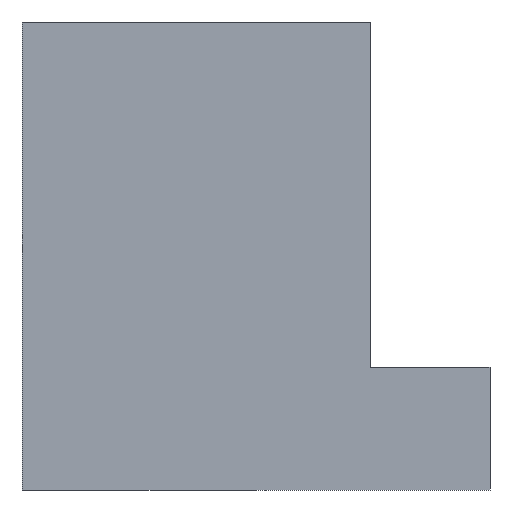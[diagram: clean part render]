
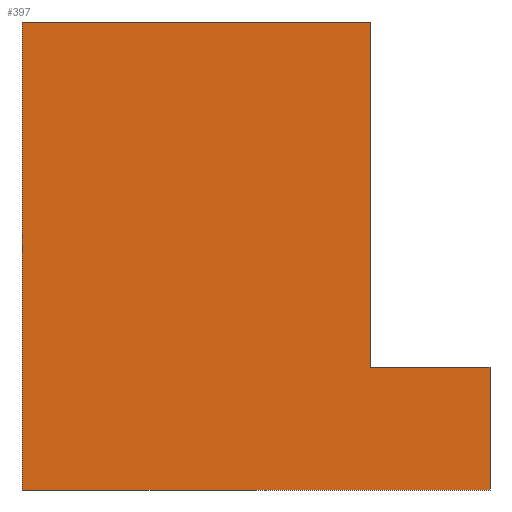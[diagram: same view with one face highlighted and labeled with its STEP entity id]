
A CAD part, left-side view. The second image highlights one B-rep face of the part: STEP entity #397.
In plain terms, the highlighted planar face has unit normal (-1, 0, 0).
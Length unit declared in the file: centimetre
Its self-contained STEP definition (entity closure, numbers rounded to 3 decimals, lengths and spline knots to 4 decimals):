
#2 = EDGE_CURVE ( 'NONE', #27, #269, #17, .T. ) ;
#17 = LINE ( 'NONE', #242, #319 ) ;
#21 = EDGE_CURVE ( 'NONE', #49, #164, #249, .T. ) ;
#27 = VERTEX_POINT ( 'NONE', #320 ) ;
#40 = EDGE_CURVE ( 'NONE', #164, #278, #157, .T. ) ;
#49 = VERTEX_POINT ( 'NONE', #309 ) ;
#64 = ORIENTED_EDGE ( 'NONE', *, *, #162, .F. ) ;
#84 = ORIENTED_EDGE ( 'NONE', *, *, #227, .T. ) ;
#86 = CARTESIAN_POINT ( 'NONE',  ( 0., 1000., 1000. ) ) ;
#95 = LINE ( 'NONE', #334, #243 ) ;
#102 = VECTOR ( 'NONE', #312, 100. ) ;
#104 = CARTESIAN_POINT ( 'NONE',  ( 0., 0., 0. ) ) ;
#105 = VERTEX_POINT ( 'NONE', #110 ) ;
#110 = CARTESIAN_POINT ( 'NONE',  ( 0., 255.1383, 1000. ) ) ;
#128 = FACE_OUTER_BOUND ( 'NONE', #160, .T. ) ;
#147 = ORIENTED_EDGE ( 'NONE', *, *, #218, .T. ) ;
#157 = LINE ( 'NONE', #429, #102 ) ;
#159 = PLANE ( 'NONE',  #221 ) ;
#160 = EDGE_LOOP ( 'NONE', ( #335, #147, #64, #196, #84, #264 ) ) ;
#162 = EDGE_CURVE ( 'NONE', #27, #105, #348, .T. ) ;
#164 = VERTEX_POINT ( 'NONE', #272 ) ;
#176 = DIRECTION ( 'NONE',  ( 0., 0., -1. ) ) ;
#178 = CARTESIAN_POINT ( 'NONE',  ( 0., 1000., 1000. ) ) ;
#182 = DIRECTION ( 'NONE',  ( 0., -1., 0. ) ) ;
#196 = ORIENTED_EDGE ( 'NONE', *, *, #2, .T. ) ;
#211 = DIRECTION ( 'NONE',  ( 0., -1., 0. ) ) ;
#218 = EDGE_CURVE ( 'NONE', #49, #105, #95, .T. ) ;
#221 = AXIS2_PLACEMENT_3D ( 'NONE', #86, #257, #223 ) ;
#223 = DIRECTION ( 'NONE',  ( 0., 0., -1. ) ) ;
#227 = EDGE_CURVE ( 'NONE', #269, #278, #258, .T. ) ;
#228 = DIRECTION ( 'NONE',  ( 0., -1., 0. ) ) ;
#230 = DIRECTION ( 'NONE',  ( 0., 0., 1. ) ) ;
#242 = CARTESIAN_POINT ( 'NONE',  ( 0., 1000., 1000. ) ) ;
#243 = VECTOR ( 'NONE', #230, 100. ) ;
#249 = LINE ( 'NONE', #283, #389 ) ;
#257 = DIRECTION ( 'NONE',  ( 1., 0., 0. ) ) ;
#258 = LINE ( 'NONE', #366, #427 ) ;
#264 = ORIENTED_EDGE ( 'NONE', *, *, #40, .F. ) ;
#269 = VERTEX_POINT ( 'NONE', #304 ) ;
#272 = CARTESIAN_POINT ( 'NONE',  ( 0., 0., 262.7558 ) ) ;
#278 = VERTEX_POINT ( 'NONE', #104 ) ;
#283 = CARTESIAN_POINT ( 'NONE',  ( 0., 255.1383, 262.7558 ) ) ;
#304 = CARTESIAN_POINT ( 'NONE',  ( 0., 1000., 0. ) ) ;
#309 = CARTESIAN_POINT ( 'NONE',  ( 0., 255.1383, 262.7558 ) ) ;
#312 = DIRECTION ( 'NONE',  ( 0., 0., -1. ) ) ;
#319 = VECTOR ( 'NONE', #176, 100. ) ;
#320 = CARTESIAN_POINT ( 'NONE',  ( 0., 1000., 1000. ) ) ;
#334 = CARTESIAN_POINT ( 'NONE',  ( 0., 255.1383, 262.7558 ) ) ;
#335 = ORIENTED_EDGE ( 'NONE', *, *, #21, .F. ) ;
#348 = LINE ( 'NONE', #178, #352 ) ;
#352 = VECTOR ( 'NONE', #211, 100. ) ;
#366 = CARTESIAN_POINT ( 'NONE',  ( 0., 1000., 0. ) ) ;
#389 = VECTOR ( 'NONE', #182, 100. ) ;
#397 = ADVANCED_FACE ( 'NONE', ( #128 ), #159, .F. ) ;
#427 = VECTOR ( 'NONE', #228, 100. ) ;
#429 = CARTESIAN_POINT ( 'NONE',  ( 0., 0., 1000. ) ) ;
